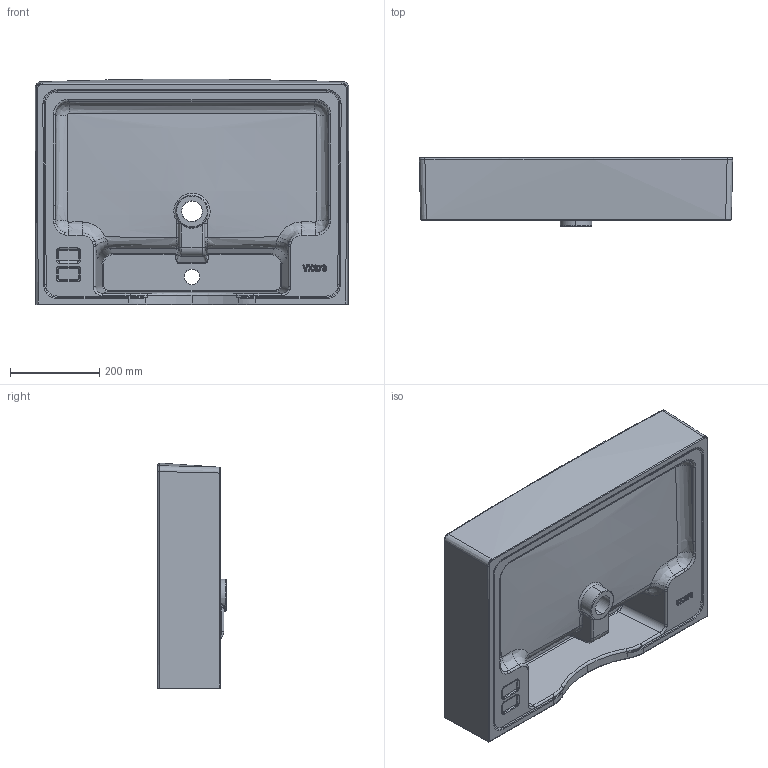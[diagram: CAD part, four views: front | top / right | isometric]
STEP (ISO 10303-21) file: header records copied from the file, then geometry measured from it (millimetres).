
FILE_DESCRIPTION (( 'STEP AP203' ), '1' );
FILE_NAME ('VX270-00CB00E-0000.STEP', '2022-06-21T08:18:28', ( '' ), ( '' ), 'SwSTEP 2.0', 'SolidWorks 2021', '' );
FILE_SCHEMA (( 'CONFIG_CONTROL_DESIGN' ));
Products named in the file (1): VX270-00CB00E-0000
Bounding box: 702.79 x 152.9 x 506.41 mm (x, y, z)
Volume: 15301799.5 mm3; surface area: 1306117.3 mm2
Topology: 2 solids, 2 shells, 562 faces, 1323 edges, 731 vertices
Faces by surface type: bspline 202, cylinder 179, plane 71, torus 64, sphere 46
Entity records: 35984 total; most frequent: CARTESIAN_POINT 24552, ORIENTED_EDGE 2556, DIRECTION 2168, EDGE_CURVE 1278, AXIS2_PLACEMENT_3D 903, VERTEX_POINT 729, EDGE_LOOP 577, FACE_OUTER_BOUND 562
